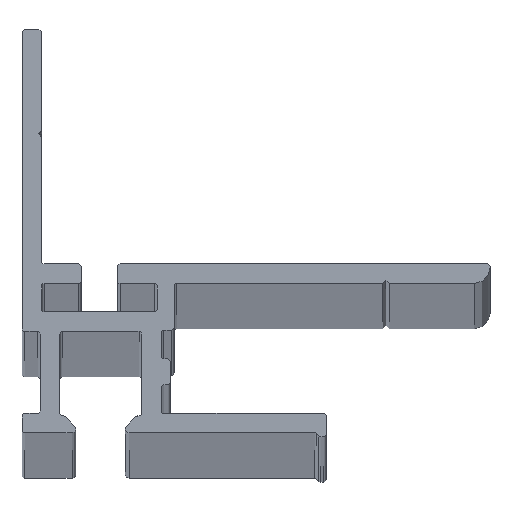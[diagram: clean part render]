
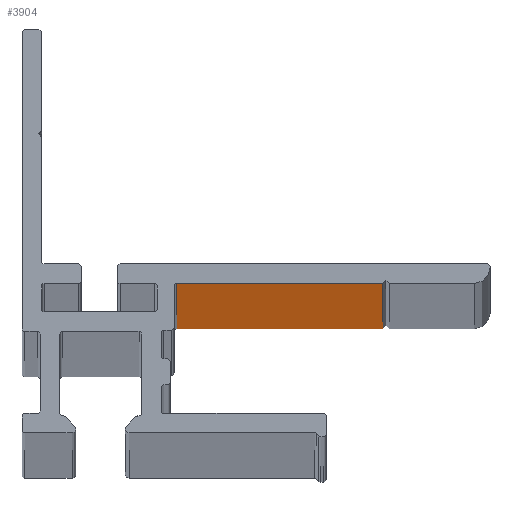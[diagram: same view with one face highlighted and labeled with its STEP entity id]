
A CAD part, top view. The second image highlights one B-rep face of the part: STEP entity #3904.
In plain terms, the highlighted planar face has unit normal (0, -1, 0).
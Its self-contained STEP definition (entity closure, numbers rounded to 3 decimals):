
#171 = ORIENTED_EDGE ( 'NONE', *, *, #3514, .T. ) ;
#488 = VECTOR ( 'NONE', #2669, 1000. ) ;
#512 = CARTESIAN_POINT ( 'NONE',  ( 5.85, 0., -2000. ) ) ;
#603 = EDGE_CURVE ( 'NONE', #2053, #4505, #2307, .T. ) ;
#635 = CARTESIAN_POINT ( 'NONE',  ( 5.85, 0., 0. ) ) ;
#660 = VECTOR ( 'NONE', #2585, 1000. ) ;
#811 = LINE ( 'NONE', #2607, #660 ) ;
#844 = LINE ( 'NONE', #3010, #891 ) ;
#859 = PLANE ( 'NONE',  #1212 ) ;
#891 = VECTOR ( 'NONE', #4492, 1000. ) ;
#1078 = VERTEX_POINT ( 'NONE', #512 ) ;
#1212 = AXIS2_PLACEMENT_3D ( 'NONE', #1923, #2980, #1572 ) ;
#1213 = EDGE_LOOP ( 'NONE', ( #2360, #2853, #171, #3194 ) ) ;
#1230 = CARTESIAN_POINT ( 'NONE',  ( 5.35, 0., 0. ) ) ;
#1428 = EDGE_CURVE ( 'NONE', #2112, #4505, #844, .T. ) ;
#1467 = EDGE_CURVE ( 'NONE', #2053, #1078, #811, .T. ) ;
#1572 = DIRECTION ( 'NONE',  ( 1., 0., 0. ) ) ;
#1818 = CARTESIAN_POINT ( 'NONE',  ( 21.7, 0., -2000. ) ) ;
#1923 = CARTESIAN_POINT ( 'NONE',  ( 5.35, 0., -2000. ) ) ;
#1937 = CARTESIAN_POINT ( 'NONE',  ( 21.7, 0., 0. ) ) ;
#2053 = VERTEX_POINT ( 'NONE', #635 ) ;
#2112 = VERTEX_POINT ( 'NONE', #1818 ) ;
#2289 = DIRECTION ( 'NONE',  ( 1., 0., 0. ) ) ;
#2307 = LINE ( 'NONE', #1230, #488 ) ;
#2360 = ORIENTED_EDGE ( 'NONE', *, *, #603, .F. ) ;
#2585 = DIRECTION ( 'NONE',  ( 0., 0., -1. ) ) ;
#2607 = CARTESIAN_POINT ( 'NONE',  ( 5.85, 0., -2000. ) ) ;
#2614 = LINE ( 'NONE', #4462, #4207 ) ;
#2669 = DIRECTION ( 'NONE',  ( 1., 0., 0. ) ) ;
#2853 = ORIENTED_EDGE ( 'NONE', *, *, #1467, .T. ) ;
#2980 = DIRECTION ( 'NONE',  ( 0., -1., 0. ) ) ;
#3010 = CARTESIAN_POINT ( 'NONE',  ( 21.7, 0., -2000. ) ) ;
#3194 = ORIENTED_EDGE ( 'NONE', *, *, #1428, .T. ) ;
#3514 = EDGE_CURVE ( 'NONE', #1078, #2112, #2614, .T. ) ;
#3904 = ADVANCED_FACE ( 'NONE', ( #4480 ), #859, .T. ) ;
#4207 = VECTOR ( 'NONE', #2289, 1000. ) ;
#4462 = CARTESIAN_POINT ( 'NONE',  ( 5.35, 0., -2000. ) ) ;
#4480 = FACE_OUTER_BOUND ( 'NONE', #1213, .T. ) ;
#4492 = DIRECTION ( 'NONE',  ( 0., 0., 1. ) ) ;
#4505 = VERTEX_POINT ( 'NONE', #1937 ) ;
